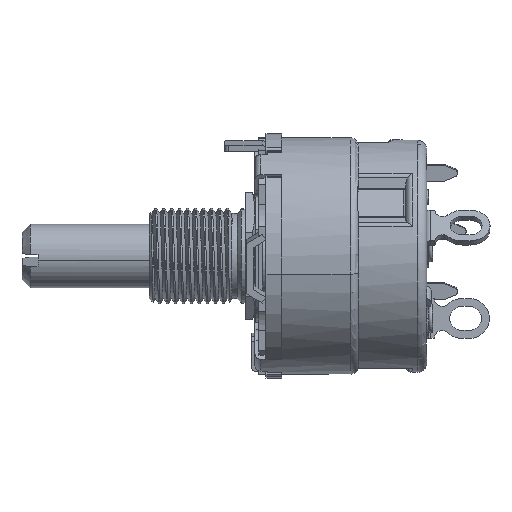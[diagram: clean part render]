
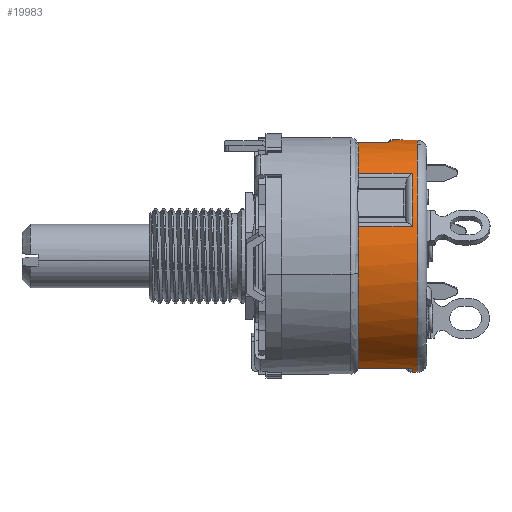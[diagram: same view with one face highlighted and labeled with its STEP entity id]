
A CAD part, left-side view. The second image highlights one B-rep face of the part: STEP entity #19983.
In plain terms, the highlighted cylindrical face has radius 11.608 mm (diameter 23.216 mm), a partial arc.
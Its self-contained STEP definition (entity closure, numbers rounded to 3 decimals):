
#35 = ORIENTED_EDGE ( 'NONE', *, *, #33082, .T. ) ;
#129 = DIRECTION ( 'NONE',  ( 0., 1., 0. ) ) ;
#234 = ORIENTED_EDGE ( 'NONE', *, *, #20764, .F. ) ;
#416 = VERTEX_POINT ( 'NONE', #9723 ) ;
#774 = EDGE_CURVE ( 'NONE', #20598, #416, #33093, .T. ) ;
#834 = EDGE_CURVE ( 'NONE', #2653, #20598, #14034, .T. ) ;
#869 = VERTEX_POINT ( 'NONE', #29829 ) ;
#1100 = CIRCLE ( 'NONE', #23544, 11.608 ) ;
#1463 = DIRECTION ( 'NONE',  ( 0., -1., 0. ) ) ;
#1582 = VERTEX_POINT ( 'NONE', #13429 ) ;
#1747 = DIRECTION ( 'NONE',  ( 0., 0., -1. ) ) ;
#1836 = CARTESIAN_POINT ( 'NONE',  ( 0., 0.457, 11.608 ) ) ;
#2160 = LINE ( 'NONE', #7945, #31472 ) ;
#2386 = CARTESIAN_POINT ( 'NONE',  ( -1.99, 3.457, 11.437 ) ) ;
#2653 = VERTEX_POINT ( 'NONE', #18312 ) ;
#2705 = VERTEX_POINT ( 'NONE', #18137 ) ;
#2730 = CARTESIAN_POINT ( 'NONE',  ( -1.209, 3.353, 11.545 ) ) ;
#3795 = LINE ( 'NONE', #1836, #14928 ) ;
#4489 = VECTOR ( 'NONE', #10556, 1000. ) ;
#4858 = CARTESIAN_POINT ( 'NONE',  ( 0., 0.965, -11.608 ) ) ;
#4885 = LINE ( 'NONE', #18432, #10508 ) ;
#5008 = CARTESIAN_POINT ( 'NONE',  ( -2.422, 3.668, 11.353 ) ) ;
#5068 = DIRECTION ( 'NONE',  ( 0., 1., 0. ) ) ;
#5093 = CARTESIAN_POINT ( 'NONE',  ( -11.228, 0.457, 2.945 ) ) ;
#5232 = VERTEX_POINT ( 'NONE', #11809 ) ;
#5352 = CARTESIAN_POINT ( 'NONE',  ( -2.698, 4.054, 11.29 ) ) ;
#5360 = EDGE_CURVE ( 'NONE', #869, #32971, #7386, .T. ) ;
#5599 = DIRECTION ( 'NONE',  ( 0., -1., 0. ) ) ;
#5718 = ORIENTED_EDGE ( 'NONE', *, *, #5360, .T. ) ;
#5790 = EDGE_CURVE ( 'NONE', #5232, #8731, #4885, .T. ) ;
#6669 = ORIENTED_EDGE ( 'NONE', *, *, #8252, .T. ) ;
#6676 = CIRCLE ( 'NONE', #12882, 11.608 ) ;
#6782 = DIRECTION ( 'NONE',  ( 0., -1., 0. ) ) ;
#6800 = EDGE_CURVE ( 'NONE', #28250, #2705, #14816, .T. ) ;
#6847 = ORIENTED_EDGE ( 'NONE', *, *, #21849, .F. ) ;
#7117 = CIRCLE ( 'NONE', #26753, 11.608 ) ;
#7271 = AXIS2_PLACEMENT_3D ( 'NONE', #29313, #5068, #15800 ) ;
#7359 = CARTESIAN_POINT ( 'NONE',  ( 0., 0.457, 0. ) ) ;
#7386 = LINE ( 'NONE', #5093, #4489 ) ;
#7536 = CYLINDRICAL_SURFACE ( 'NONE', #10937, 11.608 ) ;
#7945 = CARTESIAN_POINT ( 'NONE',  ( -3.064, 0.457, -11.196 ) ) ;
#8032 = DIRECTION ( 'NONE',  ( 0., 0., 1. ) ) ;
#8105 = ORIENTED_EDGE ( 'NONE', *, *, #6800, .T. ) ;
#8252 = EDGE_CURVE ( 'NONE', #2705, #869, #1100, .T. ) ;
#8579 = CARTESIAN_POINT ( 'NONE',  ( 0., 0.457, -11.608 ) ) ;
#8731 = VERTEX_POINT ( 'NONE', #26611 ) ;
#8914 = ORIENTED_EDGE ( 'NONE', *, *, #5790, .T. ) ;
#9433 = LINE ( 'NONE', #18047, #33418 ) ;
#9723 = CARTESIAN_POINT ( 'NONE',  ( -1.321, 0.965, 11.532 ) ) ;
#9758 = CIRCLE ( 'NONE', #22262, 11.608 ) ;
#10279 = CARTESIAN_POINT ( 'NONE',  ( -1.837, 3.417, 11.463 ) ) ;
#10508 = VECTOR ( 'NONE', #15615, 1000. ) ;
#10556 = DIRECTION ( 'NONE',  ( 0., 1., 0. ) ) ;
#10561 = CARTESIAN_POINT ( 'NONE',  ( 0., 3.353, 0. ) ) ;
#10937 = AXIS2_PLACEMENT_3D ( 'NONE', #7359, #23355, #1747 ) ;
#11547 = EDGE_CURVE ( 'NONE', #18250, #24081, #9758, .T. ) ;
#11809 = CARTESIAN_POINT ( 'NONE',  ( -2.717, 4.216, 11.285 ) ) ;
#12219 = DIRECTION ( 'NONE',  ( 0., 0., 1. ) ) ;
#12699 = EDGE_CURVE ( 'NONE', #16024, #2653, #26091, .T. ) ;
#12882 = AXIS2_PLACEMENT_3D ( 'NONE', #23046, #22528, #14269 ) ;
#13429 = CARTESIAN_POINT ( 'NONE',  ( 0., 2.565, 11.608 ) ) ;
#13452 = VECTOR ( 'NONE', #25095, 1000. ) ;
#14034 = LINE ( 'NONE', #8579, #13452 ) ;
#14269 = DIRECTION ( 'NONE',  ( 0., 0., 1. ) ) ;
#14423 = CARTESIAN_POINT ( 'NONE',  ( -3.064, 6.807, -11.196 ) ) ;
#14816 = LINE ( 'NONE', #25530, #32654 ) ;
#14861 = AXIS2_PLACEMENT_3D ( 'NONE', #32300, #5599, #27384 ) ;
#14928 = VECTOR ( 'NONE', #20303, 1000. ) ;
#15450 = FACE_OUTER_BOUND ( 'NONE', #29061, .T. ) ;
#15615 = DIRECTION ( 'NONE',  ( 0., 1., 0. ) ) ;
#15800 = DIRECTION ( 'NONE',  ( 0., 0., 1. ) ) ;
#15919 = CARTESIAN_POINT ( 'NONE',  ( -1.527, 3.364, 11.508 ) ) ;
#16024 = VERTEX_POINT ( 'NONE', #28802 ) ;
#17304 = EDGE_CURVE ( 'NONE', #28910, #416, #9433, .T. ) ;
#17698 = ORIENTED_EDGE ( 'NONE', *, *, #11547, .T. ) ;
#18047 = CARTESIAN_POINT ( 'NONE',  ( -1.321, 2.184, 11.532 ) ) ;
#18109 = CARTESIAN_POINT ( 'NONE',  ( -1.209, 3.353, 11.545 ) ) ;
#18126 = ORIENTED_EDGE ( 'NONE', *, *, #20813, .F. ) ;
#18137 = CARTESIAN_POINT ( 'NONE',  ( -8.164, 1.448, 8.251 ) ) ;
#18250 = VERTEX_POINT ( 'NONE', #27979 ) ;
#18307 = CIRCLE ( 'NONE', #34566, 11.608 ) ;
#18312 = CARTESIAN_POINT ( 'NONE',  ( 0., 1.448, -11.608 ) ) ;
#18432 = CARTESIAN_POINT ( 'NONE',  ( -2.717, 0.457, 11.285 ) ) ;
#18518 = DIRECTION ( 'NONE',  ( 0., -1., 0. ) ) ;
#18830 = DIRECTION ( 'NONE',  ( 0., -1., 0. ) ) ;
#19283 = DIRECTION ( 'NONE',  ( 0., -1., 0. ) ) ;
#19648 = ORIENTED_EDGE ( 'NONE', *, *, #12699, .T. ) ;
#19838 = CARTESIAN_POINT ( 'NONE',  ( -8.164, 6.807, 8.251 ) ) ;
#19854 = VERTEX_POINT ( 'NONE', #14423 ) ;
#19960 = DIRECTION ( 'NONE',  ( 0., 1., 0. ) ) ;
#19983 = ADVANCED_FACE ( 'NONE', ( #15450 ), #7536, .T. ) ;
#20303 = DIRECTION ( 'NONE',  ( 0., -1., 0. ) ) ;
#20483 = CARTESIAN_POINT ( 'NONE',  ( 0., 6.807, 0. ) ) ;
#20598 = VERTEX_POINT ( 'NONE', #4858 ) ;
#20608 = ORIENTED_EDGE ( 'NONE', *, *, #30029, .T. ) ;
#20764 = EDGE_CURVE ( 'NONE', #28250, #8731, #18307, .T. ) ;
#20785 = ORIENTED_EDGE ( 'NONE', *, *, #834, .T. ) ;
#20813 = EDGE_CURVE ( 'NONE', #18250, #1582, #3795, .T. ) ;
#21126 = DIRECTION ( 'NONE',  ( 0., 0., 1. ) ) ;
#21849 = EDGE_CURVE ( 'NONE', #19854, #32971, #7117, .T. ) ;
#22184 = CARTESIAN_POINT ( 'NONE',  ( -11.228, 6.807, 2.945 ) ) ;
#22262 = AXIS2_PLACEMENT_3D ( 'NONE', #10561, #18830, #21126 ) ;
#22528 = DIRECTION ( 'NONE',  ( 0., 1., 0. ) ) ;
#23046 = CARTESIAN_POINT ( 'NONE',  ( 0., 2.565, 0. ) ) ;
#23355 = DIRECTION ( 'NONE',  ( 0., -1., 0. ) ) ;
#23386 = ORIENTED_EDGE ( 'NONE', *, *, #29219, .T. ) ;
#23544 = AXIS2_PLACEMENT_3D ( 'NONE', #26828, #19283, #24726 ) ;
#23811 = CARTESIAN_POINT ( 'NONE',  ( -2.717, 4.134, 11.285 ) ) ;
#23989 = CARTESIAN_POINT ( 'NONE',  ( -2.632, 3.907, 11.306 ) ) ;
#24081 = VERTEX_POINT ( 'NONE', #18109 ) ;
#24353 = ORIENTED_EDGE ( 'NONE', *, *, #774, .T. ) ;
#24726 = DIRECTION ( 'NONE',  ( 0., 0., 1. ) ) ;
#25095 = DIRECTION ( 'NONE',  ( 0., -1., 0. ) ) ;
#25530 = CARTESIAN_POINT ( 'NONE',  ( -8.164, 0.457, 8.251 ) ) ;
#26091 = CIRCLE ( 'NONE', #14861, 11.608 ) ;
#26303 = CARTESIAN_POINT ( 'NONE',  ( 0., 6.807, 0. ) ) ;
#26608 = CARTESIAN_POINT ( 'NONE',  ( -2.283, 3.583, 11.382 ) ) ;
#26611 = CARTESIAN_POINT ( 'NONE',  ( -2.717, 6.807, 11.285 ) ) ;
#26753 = AXIS2_PLACEMENT_3D ( 'NONE', #26303, #129, #8032 ) ;
#26828 = CARTESIAN_POINT ( 'NONE',  ( 0., 1.448, 0. ) ) ;
#26901 = B_SPLINE_CURVE_WITH_KNOTS ( 'NONE', 3,
 ( #2730, #31883, #15919, #10279, #2386, #26608, #5008, #32064, #23989, #5352, #23811, #34524 ),
 .UNSPECIFIED., .F., .F.,
 ( 4, 2, 2, 2, 2, 4 ),
 ( 0., 0., 0.001, 0.001, 0.002, 0.002 ),
 .UNSPECIFIED. ) ;
#27384 = DIRECTION ( 'NONE',  ( 0., 0., 1. ) ) ;
#27979 = CARTESIAN_POINT ( 'NONE',  ( 0., 3.353, 11.608 ) ) ;
#28250 = VERTEX_POINT ( 'NONE', #19838 ) ;
#28802 = CARTESIAN_POINT ( 'NONE',  ( -3.064, 1.448, -11.196 ) ) ;
#28910 = VERTEX_POINT ( 'NONE', #34179 ) ;
#28995 = ORIENTED_EDGE ( 'NONE', *, *, #17304, .F. ) ;
#29061 = EDGE_LOOP ( 'NONE', ( #18126, #17698, #20608, #8914, #234, #8105, #6669, #5718, #6847, #23386, #19648, #20785, #24353, #28995, #35 ) ) ;
#29219 = EDGE_CURVE ( 'NONE', #19854, #16024, #2160, .T. ) ;
#29313 = CARTESIAN_POINT ( 'NONE',  ( 0., 0.965, 0. ) ) ;
#29829 = CARTESIAN_POINT ( 'NONE',  ( -11.228, 1.448, 2.945 ) ) ;
#30029 = EDGE_CURVE ( 'NONE', #24081, #5232, #26901, .T. ) ;
#31472 = VECTOR ( 'NONE', #18518, 1000. ) ;
#31883 = CARTESIAN_POINT ( 'NONE',  ( -1.369, 3.353, 11.528 ) ) ;
#32064 = CARTESIAN_POINT ( 'NONE',  ( -2.584, 3.841, 11.317 ) ) ;
#32300 = CARTESIAN_POINT ( 'NONE',  ( 0., 1.448, 0. ) ) ;
#32654 = VECTOR ( 'NONE', #1463, 1000. ) ;
#32971 = VERTEX_POINT ( 'NONE', #22184 ) ;
#33082 = EDGE_CURVE ( 'NONE', #28910, #1582, #6676, .T. ) ;
#33093 = CIRCLE ( 'NONE', #7271, 11.608 ) ;
#33418 = VECTOR ( 'NONE', #6782, 1000. ) ;
#34179 = CARTESIAN_POINT ( 'NONE',  ( -1.321, 2.565, 11.532 ) ) ;
#34524 = CARTESIAN_POINT ( 'NONE',  ( -2.717, 4.216, 11.285 ) ) ;
#34566 = AXIS2_PLACEMENT_3D ( 'NONE', #20483, #19960, #12219 ) ;
